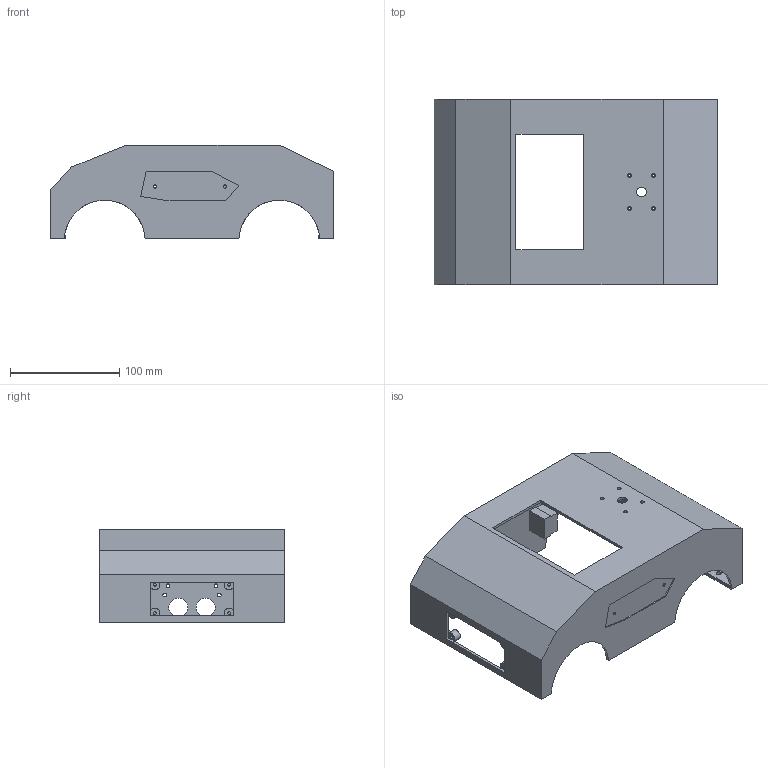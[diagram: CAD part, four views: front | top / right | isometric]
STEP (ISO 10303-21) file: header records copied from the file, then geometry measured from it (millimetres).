
FILE_DESCRIPTION(('Open CASCADE Model'),'2;1');
FILE_NAME('AETHER_Main_Body_Shell','2026-10-12T13:16:35',('Author'),( 'Open CASCADE'),'Open CASCADE STEP processor 7.9','build123d', 'Unknown');
FILE_SCHEMA(('AUTOMOTIVE_DESIGN { 1 0 10303 214 1 1 1 1 }'));
Length unit declared in the file: millimetre
Products named in the file (1): AETHER_Main_Body_Shell
Bounding box: 260 x 170 x 86 mm (x, y, z)
Volume: 243745.2 mm3; surface area: 188120.7 mm2
Topology: 1 solids, 1 shells, 167 faces, 440 edges, 288 vertices
Faces by surface type: plane 117, cylinder 50
Full cylindrical faces by diameter (mm): 2.5 x11, 2.9 x4, 3.4 x15, 4.5 x4, 8.6 x4, 9 x1, 9.2 x4, 14 x1, 17.4 x2
Entity records: 10880 total; most frequent: CARTESIAN_POINT 2086, DIRECTION 1565, ORIENTED_EDGE 880, PCURVE 880, DEFINITIONAL_REPRESENTATION 880, LINE 876, VECTOR 876, EDGE_CURVE 440
